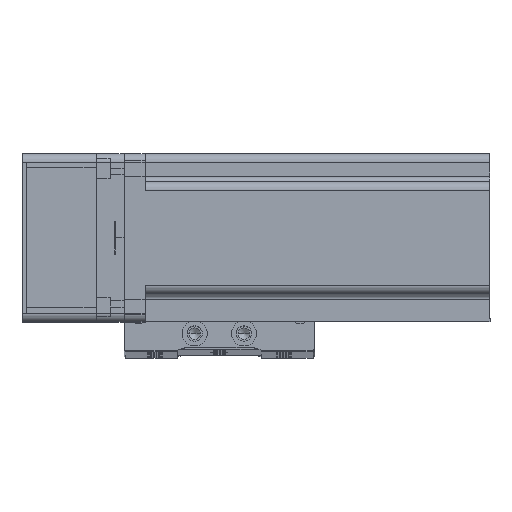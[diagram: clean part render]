
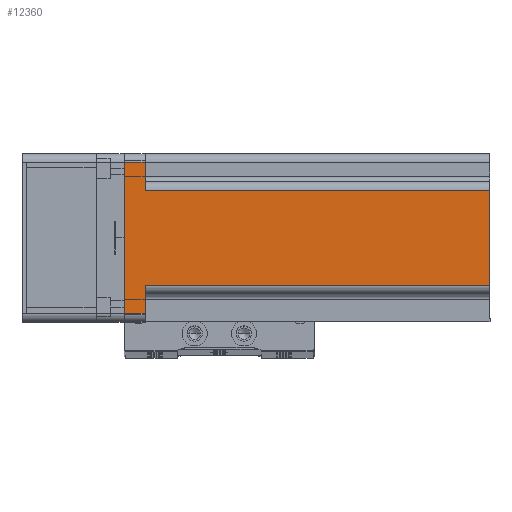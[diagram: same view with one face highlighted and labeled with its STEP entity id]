
A CAD part, top view. The second image highlights one B-rep face of the part: STEP entity #12360.
In plain terms, the highlighted planar face has unit normal (0, 0, 1) as drawn and (0, 1, 0) by its records, which use the part's own axes.
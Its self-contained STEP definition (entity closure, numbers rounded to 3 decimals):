
#127 = EDGE_CURVE ( 'NONE', #26576, #5164, #24619, .T. ) ;
#411 = DIRECTION ( 'NONE',  ( 0., 0., -1. ) ) ;
#803 = EDGE_CURVE ( 'NONE', #18971, #47795, #50885, .T. ) ;
#1578 = DIRECTION ( 'NONE',  ( 0., 0., 1. ) ) ;
#2639 = CARTESIAN_POINT ( 'NONE',  ( 17., 30., 130.7 ) ) ;
#3734 = LINE ( 'NONE', #26592, #37803 ) ;
#4480 = DIRECTION ( 'NONE',  ( 0., 0., -1. ) ) ;
#4600 = ORIENTED_EDGE ( 'NONE', *, *, #57623, .T. ) ;
#5164 = VERTEX_POINT ( 'NONE', #48803 ) ;
#6360 = VECTOR ( 'NONE', #39685, 1000. ) ;
#6577 = CARTESIAN_POINT ( 'NONE',  ( 27., 30., 7.5 ) ) ;
#9333 = CARTESIAN_POINT ( 'NONE',  ( 20., 30., 7.5 ) ) ;
#10575 = ORIENTED_EDGE ( 'NONE', *, *, #31866, .T. ) ;
#11031 = FACE_OUTER_BOUND ( 'NONE', #42496, .T. ) ;
#12360 = ADVANCED_FACE ( 'NONE', ( #11031 ), #41093, .F. ) ;
#12779 = VECTOR ( 'NONE', #13788, 1000. ) ;
#13025 = CARTESIAN_POINT ( 'NONE',  ( 30., 30., 0. ) ) ;
#13788 = DIRECTION ( 'NONE',  ( -1., 0., 0. ) ) ;
#16358 = ORIENTED_EDGE ( 'NONE', *, *, #23818, .F. ) ;
#17357 = CARTESIAN_POINT ( 'NONE',  ( -27., 30., 130.7 ) ) ;
#18132 = CARTESIAN_POINT ( 'NONE',  ( -17., 30., 130.7 ) ) ;
#18929 = LINE ( 'NONE', #28177, #29318 ) ;
#18971 = VERTEX_POINT ( 'NONE', #51725 ) ;
#19516 = ORIENTED_EDGE ( 'NONE', *, *, #23092, .T. ) ;
#22395 = LINE ( 'NONE', #53834, #34236 ) ;
#23092 = EDGE_CURVE ( 'NONE', #38078, #5164, #3734, .T. ) ;
#23578 = CARTESIAN_POINT ( 'NONE',  ( 30., 30., 130.7 ) ) ;
#23758 = LINE ( 'NONE', #28064, #35576 ) ;
#23818 = EDGE_CURVE ( 'NONE', #38078, #28599, #23758, .T. ) ;
#24619 = LINE ( 'NONE', #9333, #12779 ) ;
#26576 = VERTEX_POINT ( 'NONE', #6577 ) ;
#26592 = CARTESIAN_POINT ( 'NONE',  ( 17., 30., 130.7 ) ) ;
#27676 = DIRECTION ( 'NONE',  ( -1., 0., 0. ) ) ;
#28059 = DIRECTION ( 'NONE',  ( 1., 0., 0. ) ) ;
#28064 = CARTESIAN_POINT ( 'NONE',  ( 30., 30., 130.7 ) ) ;
#28177 = CARTESIAN_POINT ( 'NONE',  ( -17., 30., 130.7 ) ) ;
#28599 = VERTEX_POINT ( 'NONE', #18132 ) ;
#28636 = VERTEX_POINT ( 'NONE', #31904 ) ;
#29318 = VECTOR ( 'NONE', #1578, 1000. ) ;
#29953 = LINE ( 'NONE', #17357, #6360 ) ;
#31172 = DIRECTION ( 'NONE',  ( 1., 0., 0. ) ) ;
#31866 = EDGE_CURVE ( 'NONE', #26576, #18971, #22395, .T. ) ;
#31904 = CARTESIAN_POINT ( 'NONE',  ( -27., 30., 7.5 ) ) ;
#34236 = VECTOR ( 'NONE', #411, 1000. ) ;
#35145 = DIRECTION ( 'NONE',  ( -1., 0., 0. ) ) ;
#35576 = VECTOR ( 'NONE', #27676, 1000. ) ;
#37685 = VECTOR ( 'NONE', #35145, 1000. ) ;
#37803 = VECTOR ( 'NONE', #4480, 1000. ) ;
#38078 = VERTEX_POINT ( 'NONE', #2639 ) ;
#38806 = VECTOR ( 'NONE', #31172, 1000. ) ;
#39685 = DIRECTION ( 'NONE',  ( 0., 0., 1. ) ) ;
#40023 = ORIENTED_EDGE ( 'NONE', *, *, #52061, .T. ) ;
#40877 = VERTEX_POINT ( 'NONE', #49394 ) ;
#41093 = PLANE ( 'NONE',  #50581 ) ;
#42496 = EDGE_LOOP ( 'NONE', ( #57132, #40023, #16358, #19516, #51857, #10575, #48449, #4600 ) ) ;
#43624 = EDGE_CURVE ( 'NONE', #28636, #40877, #51991, .T. ) ;
#44598 = CARTESIAN_POINT ( 'NONE',  ( -20., 30., 7.5 ) ) ;
#47795 = VERTEX_POINT ( 'NONE', #56534 ) ;
#48449 = ORIENTED_EDGE ( 'NONE', *, *, #803, .T. ) ;
#48803 = CARTESIAN_POINT ( 'NONE',  ( 17., 30., 7.5 ) ) ;
#49394 = CARTESIAN_POINT ( 'NONE',  ( -17., 30., 7.5 ) ) ;
#50581 = AXIS2_PLACEMENT_3D ( 'NONE', #23578, #54711, #28059 ) ;
#50885 = LINE ( 'NONE', #13025, #37685 ) ;
#51725 = CARTESIAN_POINT ( 'NONE',  ( 27., 30., 0. ) ) ;
#51857 = ORIENTED_EDGE ( 'NONE', *, *, #127, .F. ) ;
#51991 = LINE ( 'NONE', #44598, #38806 ) ;
#52061 = EDGE_CURVE ( 'NONE', #40877, #28599, #18929, .T. ) ;
#53834 = CARTESIAN_POINT ( 'NONE',  ( 27., 30., 130.7 ) ) ;
#54711 = DIRECTION ( 'NONE',  ( 0., -1., 0. ) ) ;
#56534 = CARTESIAN_POINT ( 'NONE',  ( -27., 30., 0. ) ) ;
#57132 = ORIENTED_EDGE ( 'NONE', *, *, #43624, .T. ) ;
#57623 = EDGE_CURVE ( 'NONE', #47795, #28636, #29953, .T. ) ;
